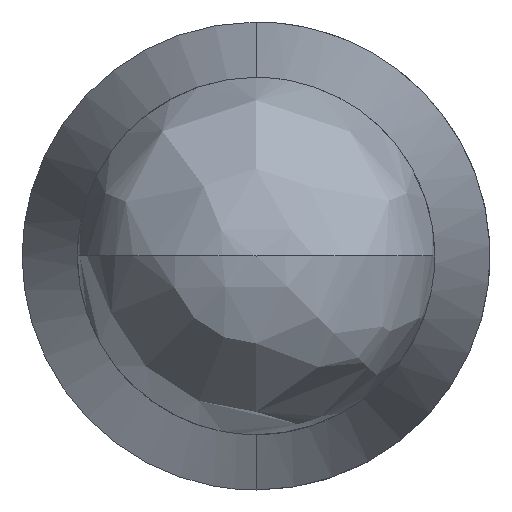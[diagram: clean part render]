
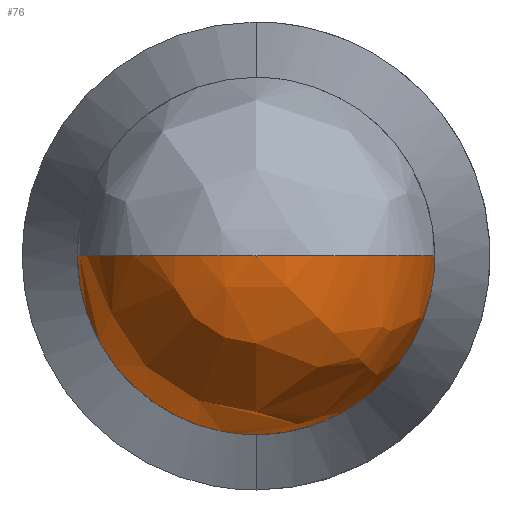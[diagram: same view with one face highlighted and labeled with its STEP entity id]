
A CAD part, left-side view. The second image highlights one B-rep face of the part: STEP entity #76.
In plain terms, the highlighted free-form (B-spline) face has degree [3, 3] with [4, 7] control points.
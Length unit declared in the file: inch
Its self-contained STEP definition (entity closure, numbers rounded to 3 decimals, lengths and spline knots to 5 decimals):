
#4 = CARTESIAN_POINT ( 'NONE',  ( 0., 0., 0. ) ) ;
#25 =( BOUNDED_SURFACE ( )  B_SPLINE_SURFACE ( 3, 3, ( 
 ( #423, #59, #510, #135, #947, #936, #640 ),
 ( #941, #353, #875, #882, #284, #573, #584 ),
 ( #520, #212, #416, #722, #64, #868, #705 ),
 ( #214, #350, #201, #496, #789, #125, #711 ) ),
 .UNSPECIFIED., .F., .F., .F. ) 
 B_SPLINE_SURFACE_WITH_KNOTS ( ( 4, 4 ),
 ( 4, 3, 4 ),
 ( 0., 1. ),
 ( 0., 0.5, 1. ),
 .UNSPECIFIED. ) 
 GEOMETRIC_REPRESENTATION_ITEM ( )  RATIONAL_B_SPLINE_SURFACE ( (
 ( 1., 0.805, 0.805, 1., 0.805, 0.805, 1.),
 ( 0.805, 0.648, 0.648, 0.805, 0.648, 0.648, 0.805),
 ( 0.805, 0.648, 0.648, 0.805, 0.648, 0.648, 0.805),
 ( 1., 0.805, 0.805, 1., 0.805, 0.805, 1.) ) ) 
 REPRESENTATION_ITEM ( '' )  SURFACE ( )  );
#59 = CARTESIAN_POINT ( 'NONE',  ( 0.0105, 0.0105, -0.00615 ) ) ;
#64 = CARTESIAN_POINT ( 'NONE',  ( 0., -0.0036, -0.00615 ) ) ;
#76 = ADVANCED_FACE ( 'NONE', ( #418 ), #25, .F. ) ;
#101 = ORIENTED_EDGE ( 'NONE', *, *, #618, .T. ) ;
#105 = EDGE_CURVE ( 'NONE', #505, #595, #331, .T. ) ;
#125 = CARTESIAN_POINT ( 'NONE',  ( 0., 0., 0. ) ) ;
#135 = CARTESIAN_POINT ( 'NONE',  ( 0.0105, 0., -0.0105 ) ) ;
#201 = CARTESIAN_POINT ( 'NONE',  ( 0., 0., 0. ) ) ;
#212 = CARTESIAN_POINT ( 'NONE',  ( 0., 0.00615, -0.0036 ) ) ;
#214 = CARTESIAN_POINT ( 'NONE',  ( 0., 0., 0. ) ) ;
#239 = CARTESIAN_POINT ( 'NONE',  ( 0.0105, -0.0105, 0. ) ) ;
#284 = CARTESIAN_POINT ( 'NONE',  ( 0.00435, -0.00615, -0.0105 ) ) ;
#311 = CARTESIAN_POINT ( 'NONE',  ( 0.0105, 0., -0.0105 ) ) ;
#316 = CARTESIAN_POINT ( 'NONE',  ( 0.0105, -0.0105, -0.00615 ) ) ;
#331 =( BOUNDED_CURVE ( )  B_SPLINE_CURVE ( 3, ( #386, #376, #742, #381 ),
 .UNSPECIFIED., .F., .F. ) 
 B_SPLINE_CURVE_WITH_KNOTS ( ( 4, 4 ),
 ( -4.71239, -3.14159 ),
 .UNSPECIFIED. ) 
 CURVE ( )  GEOMETRIC_REPRESENTATION_ITEM ( )  RATIONAL_B_SPLINE_CURVE ( ( 1., 0.805, 0.805, 1. ) ) 
 REPRESENTATION_ITEM ( '' )  );
#350 = CARTESIAN_POINT ( 'NONE',  ( 0., 0., 0. ) ) ;
#353 = CARTESIAN_POINT ( 'NONE',  ( 0.00435, 0.0105, -0.00615 ) ) ;
#376 = CARTESIAN_POINT ( 'NONE',  ( 0., -0.00615, 0. ) ) ;
#381 = CARTESIAN_POINT ( 'NONE',  ( 0.0105, -0.0105, 0. ) ) ;
#386 = CARTESIAN_POINT ( 'NONE',  ( 0., 0., 0. ) ) ;
#389 = CARTESIAN_POINT ( 'NONE',  ( 0.0105, 0., -0.0105 ) ) ;
#391 = CARTESIAN_POINT ( 'NONE',  ( 0.00435, 0.0105, 0. ) ) ;
#416 = CARTESIAN_POINT ( 'NONE',  ( 0., 0.0036, -0.00615 ) ) ;
#418 = FACE_OUTER_BOUND ( 'NONE', #905, .T. ) ;
#423 = CARTESIAN_POINT ( 'NONE',  ( 0.0105, 0.0105, 0. ) ) ;
#488 = CARTESIAN_POINT ( 'NONE',  ( 0., 0., 0. ) ) ;
#496 = CARTESIAN_POINT ( 'NONE',  ( 0., 0., 0. ) ) ;
#505 = VERTEX_POINT ( 'NONE', #488 ) ;
#510 = CARTESIAN_POINT ( 'NONE',  ( 0.0105, 0.00615, -0.0105 ) ) ;
#514 = CARTESIAN_POINT ( 'NONE',  ( 0.0105, 0.0105, -0.00615 ) ) ;
#518 =( BOUNDED_CURVE ( )  B_SPLINE_CURVE ( 3, ( #672, #391, #603, #4 ),
 .UNSPECIFIED., .F., .F. ) 
 B_SPLINE_CURVE_WITH_KNOTS ( ( 4, 4 ),
 ( -3.14159, -1.5708 ),
 .UNSPECIFIED. ) 
 CURVE ( )  GEOMETRIC_REPRESENTATION_ITEM ( )  RATIONAL_B_SPLINE_CURVE ( ( 1., 0.805, 0.805, 1. ) ) 
 REPRESENTATION_ITEM ( '' )  );
#520 = CARTESIAN_POINT ( 'NONE',  ( 0., 0.00615, 0. ) ) ;
#527 = ORIENTED_EDGE ( 'NONE', *, *, #564, .T. ) ;
#564 = EDGE_CURVE ( 'NONE', #964, #826, #924, .T. ) ;
#573 = CARTESIAN_POINT ( 'NONE',  ( 0.00435, -0.0105, -0.00615 ) ) ;
#584 = CARTESIAN_POINT ( 'NONE',  ( 0.00435, -0.0105, 0. ) ) ;
#595 = VERTEX_POINT ( 'NONE', #765 ) ;
#603 = CARTESIAN_POINT ( 'NONE',  ( 0., 0.00615, 0. ) ) ;
#618 = EDGE_CURVE ( 'NONE', #826, #595, #844, .T. ) ;
#640 = CARTESIAN_POINT ( 'NONE',  ( 0.0105, -0.0105, 0. ) ) ;
#672 = CARTESIAN_POINT ( 'NONE',  ( 0.0105, 0.0105, 0. ) ) ;
#682 = ORIENTED_EDGE ( 'NONE', *, *, #105, .F. ) ;
#705 = CARTESIAN_POINT ( 'NONE',  ( 0., -0.00615, 0. ) ) ;
#711 = CARTESIAN_POINT ( 'NONE',  ( 0., 0., 0. ) ) ;
#714 = ORIENTED_EDGE ( 'NONE', *, *, #866, .F. ) ;
#722 = CARTESIAN_POINT ( 'NONE',  ( 0., 0., -0.00615 ) ) ;
#739 = CARTESIAN_POINT ( 'NONE',  ( 0.0105, 0.0105, 0. ) ) ;
#742 = CARTESIAN_POINT ( 'NONE',  ( 0.00435, -0.0105, 0. ) ) ;
#765 = CARTESIAN_POINT ( 'NONE',  ( 0.0105, -0.0105, 0. ) ) ;
#789 = CARTESIAN_POINT ( 'NONE',  ( 0., 0., 0. ) ) ;
#793 = CARTESIAN_POINT ( 'NONE',  ( 0.0105, 0.0105, 0. ) ) ;
#802 = CARTESIAN_POINT ( 'NONE',  ( 0.0105, 0., -0.0105 ) ) ;
#826 = VERTEX_POINT ( 'NONE', #311 ) ;
#844 =( BOUNDED_CURVE ( )  B_SPLINE_CURVE ( 3, ( #389, #899, #316, #239 ),
 .UNSPECIFIED., .F., .F. ) 
 B_SPLINE_CURVE_WITH_KNOTS ( ( 4, 4 ),
 ( -1.5708, 0. ),
 .UNSPECIFIED. ) 
 CURVE ( )  GEOMETRIC_REPRESENTATION_ITEM ( )  RATIONAL_B_SPLINE_CURVE ( ( 1., 0.805, 0.805, 1. ) ) 
 REPRESENTATION_ITEM ( '' )  );
#866 = EDGE_CURVE ( 'NONE', #964, #505, #518, .T. ) ;
#868 = CARTESIAN_POINT ( 'NONE',  ( 0., -0.00615, -0.0036 ) ) ;
#875 = CARTESIAN_POINT ( 'NONE',  ( 0.00435, 0.00615, -0.0105 ) ) ;
#882 = CARTESIAN_POINT ( 'NONE',  ( 0.00435, 0., -0.0105 ) ) ;
#890 = CARTESIAN_POINT ( 'NONE',  ( 0.0105, 0.00615, -0.0105 ) ) ;
#899 = CARTESIAN_POINT ( 'NONE',  ( 0.0105, -0.00615, -0.0105 ) ) ;
#905 = EDGE_LOOP ( 'NONE', ( #101, #682, #714, #527 ) ) ;
#924 =( BOUNDED_CURVE ( )  B_SPLINE_CURVE ( 3, ( #739, #514, #890, #802 ),
 .UNSPECIFIED., .F., .T. ) 
 B_SPLINE_CURVE_WITH_KNOTS ( ( 4, 4 ),
 ( -1.5708, 0. ),
 .UNSPECIFIED. ) 
 CURVE ( )  GEOMETRIC_REPRESENTATION_ITEM ( )  RATIONAL_B_SPLINE_CURVE ( ( 1., 0.805, 0.805, 1. ) ) 
 REPRESENTATION_ITEM ( '' )  );
#936 = CARTESIAN_POINT ( 'NONE',  ( 0.0105, -0.0105, -0.00615 ) ) ;
#941 = CARTESIAN_POINT ( 'NONE',  ( 0.00435, 0.0105, 0. ) ) ;
#947 = CARTESIAN_POINT ( 'NONE',  ( 0.0105, -0.00615, -0.0105 ) ) ;
#964 = VERTEX_POINT ( 'NONE', #793 ) ;
